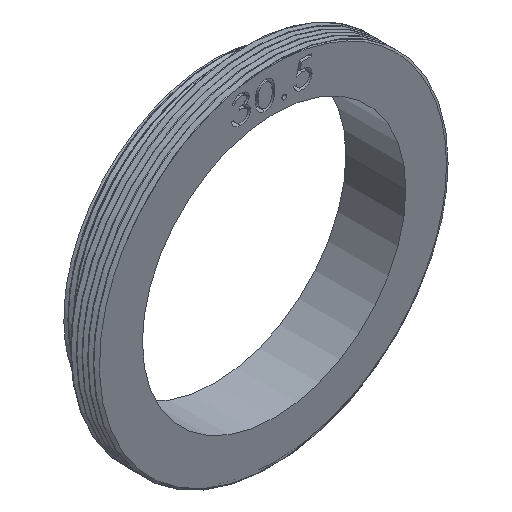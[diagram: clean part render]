
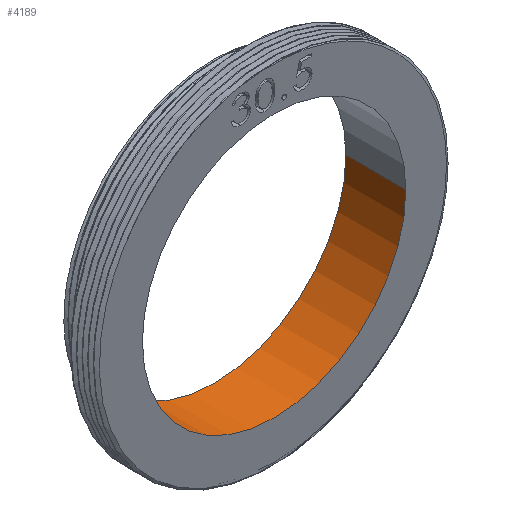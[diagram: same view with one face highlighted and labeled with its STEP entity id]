
A CAD part, isometric view. The second image highlights one B-rep face of the part: STEP entity #4189.
In plain terms, the highlighted cylindrical face has radius 13.233 mm (diameter 26.467 mm), a partial arc.
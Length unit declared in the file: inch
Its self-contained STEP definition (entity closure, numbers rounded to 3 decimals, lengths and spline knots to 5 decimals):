
#13 = AXIS2_PLACEMENT_3D ( 'NONE', #3982, #4963, #1509 ) ;
#134 = EDGE_CURVE ( 'NONE', #1651, #4287, #961, .T. ) ;
#409 = EDGE_LOOP ( 'NONE', ( #1223, #5006, #5256, #918 ) ) ;
#547 = CARTESIAN_POINT ( 'NONE',  ( 0., 0., 0. ) ) ;
#615 = EDGE_CURVE ( 'NONE', #4439, #4287, #2789, .T. ) ;
#918 = ORIENTED_EDGE ( 'NONE', *, *, #615, .F. ) ;
#961 = CIRCLE ( 'NONE', #1258, 0.521 ) ;
#1223 = ORIENTED_EDGE ( 'NONE', *, *, #3763, .F. ) ;
#1258 = AXIS2_PLACEMENT_3D ( 'NONE', #1958, #2920, #1540 ) ;
#1267 = CARTESIAN_POINT ( 'NONE',  ( 0.521, 0., 0. ) ) ;
#1509 = DIRECTION ( 'NONE',  ( 1., 0., 0. ) ) ;
#1540 = DIRECTION ( 'NONE',  ( 1., 0., 0. ) ) ;
#1651 = VERTEX_POINT ( 'NONE', #3562 ) ;
#1727 = DIRECTION ( 'NONE',  ( 1., 0., 0. ) ) ;
#1731 = LINE ( 'NONE', #4898, #2105 ) ;
#1814 = DIRECTION ( 'NONE',  ( 0., -1., 0. ) ) ;
#1958 = CARTESIAN_POINT ( 'NONE',  ( 0., 0., 0. ) ) ;
#2039 = DIRECTION ( 'NONE',  ( 0., -1., 0. ) ) ;
#2102 = CYLINDRICAL_SURFACE ( 'NONE', #4238, 0.521 ) ;
#2105 = VECTOR ( 'NONE', #4498, 39.37008 ) ;
#2363 = EDGE_CURVE ( 'NONE', #4363, #1651, #1731, .T. ) ;
#2789 = LINE ( 'NONE', #1267, #4394 ) ;
#2920 = DIRECTION ( 'NONE',  ( 0., -1., 0. ) ) ;
#3562 = CARTESIAN_POINT ( 'NONE',  ( -0.521, 0., 0. ) ) ;
#3763 = EDGE_CURVE ( 'NONE', #4363, #4439, #4386, .T. ) ;
#3982 = CARTESIAN_POINT ( 'NONE',  ( 0., 0.237, 0. ) ) ;
#4189 = ADVANCED_FACE ( 'NONE', ( #5916 ), #2102, .F. ) ;
#4238 = AXIS2_PLACEMENT_3D ( 'NONE', #547, #2039, #1727 ) ;
#4287 = VERTEX_POINT ( 'NONE', #4610 ) ;
#4363 = VERTEX_POINT ( 'NONE', #6256 ) ;
#4386 = CIRCLE ( 'NONE', #13, 0.521 ) ;
#4394 = VECTOR ( 'NONE', #1814, 39.37008 ) ;
#4397 = CARTESIAN_POINT ( 'NONE',  ( 0.521, 0.237, 0. ) ) ;
#4439 = VERTEX_POINT ( 'NONE', #4397 ) ;
#4498 = DIRECTION ( 'NONE',  ( 0., -1., 0. ) ) ;
#4610 = CARTESIAN_POINT ( 'NONE',  ( 0.521, 0., 0. ) ) ;
#4898 = CARTESIAN_POINT ( 'NONE',  ( -0.521, 0., 0. ) ) ;
#4963 = DIRECTION ( 'NONE',  ( 0., -1., 0. ) ) ;
#5006 = ORIENTED_EDGE ( 'NONE', *, *, #2363, .T. ) ;
#5256 = ORIENTED_EDGE ( 'NONE', *, *, #134, .T. ) ;
#5916 = FACE_OUTER_BOUND ( 'NONE', #409, .T. ) ;
#6256 = CARTESIAN_POINT ( 'NONE',  ( -0.521, 0.237, 0. ) ) ;
